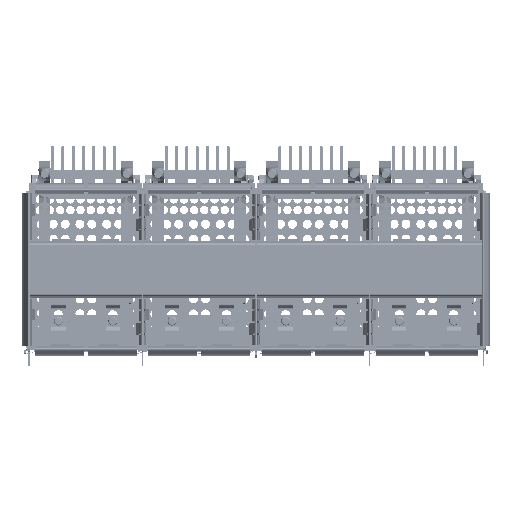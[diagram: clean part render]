
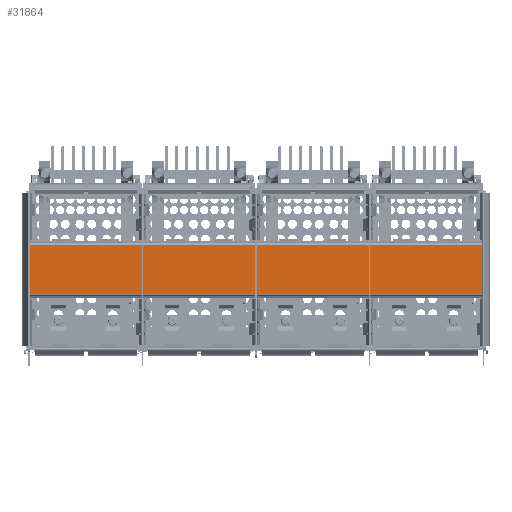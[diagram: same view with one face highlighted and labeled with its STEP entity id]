
A CAD part, top view. The second image highlights one B-rep face of the part: STEP entity #31864.
In plain terms, the highlighted planar face has unit normal (0, 0, 1).
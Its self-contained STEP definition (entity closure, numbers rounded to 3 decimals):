
#30753=DIRECTION('',(-1.,0.,0.));
#30754=VECTOR('',#30753,75.57);
#30755=CARTESIAN_POINT('',(18.775,17.245,35.923));
#30756=LINE('',#30755,#30754);
#31077=DIRECTION('',(1.,0.,0.));
#31078=VECTOR('',#31077,75.57);
#31079=CARTESIAN_POINT('',(-56.795,9.145,35.923));
#31080=LINE('',#31079,#31078);
#31085=DIRECTION('',(0.,-1.,0.));
#31086=VECTOR('',#31085,8.1);
#31087=CARTESIAN_POINT('',(-56.795,17.245,35.923));
#31088=LINE('',#31087,#31086);
#31089=DIRECTION('',(0.,1.,0.));
#31090=VECTOR('',#31089,8.1);
#31091=CARTESIAN_POINT('',(18.775,9.145,35.923));
#31092=LINE('',#31091,#31090);
#31094=CARTESIAN_POINT('',(-56.795,17.245,35.923));
#31096=VERTEX_POINT('',#31094);
#31163=CARTESIAN_POINT('',(-56.795,9.145,35.923));
#31164=VERTEX_POINT('',#31163);
#31166=CARTESIAN_POINT('',(18.775,17.245,35.923));
#31168=VERTEX_POINT('',#31166);
#31235=CARTESIAN_POINT('',(18.775,9.145,35.923));
#31236=VERTEX_POINT('',#31235);
#31853=CARTESIAN_POINT('',(-19.01,13.195,35.923));
#31854=DIRECTION('',(0.,0.,1.));
#31855=DIRECTION('',(0.,-1.,0.));
#31856=AXIS2_PLACEMENT_3D('',#31853,#31854,#31855);
#31857=PLANE('',#31856);
#31858=ORIENTED_EDGE('',*,*,#31260,.F.);
#31859=ORIENTED_EDGE('',*,*,#31342,.F.);
#31860=ORIENTED_EDGE('',*,*,#31640,.F.);
#31861=ORIENTED_EDGE('',*,*,#31846,.F.);
#31862=EDGE_LOOP('',(#31858,#31859,#31860,#31861));
#31863=FACE_OUTER_BOUND('',#31862,.F.);
#31864=ADVANCED_FACE('',(#31863),#31857,.T.);
#31260=EDGE_CURVE('',#31096,#31164,#31088,.T.);
#31342=EDGE_CURVE('',#31168,#31096,#30756,.T.);
#31640=EDGE_CURVE('',#31236,#31168,#31092,.T.);
#31846=EDGE_CURVE('',#31164,#31236,#31080,.T.);
